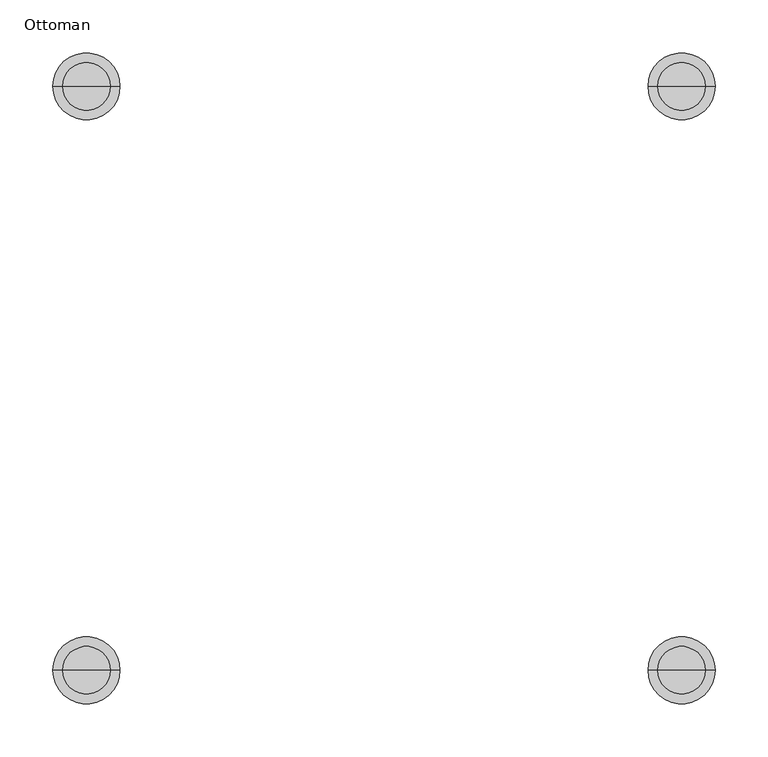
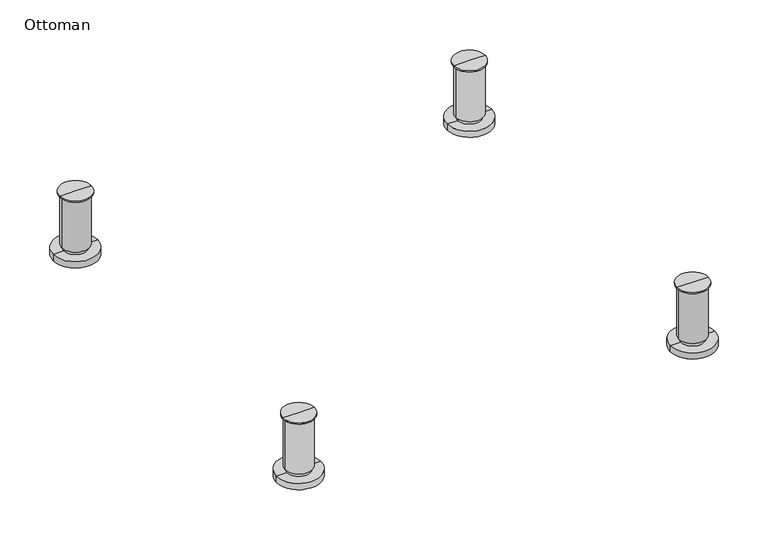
"""IFC4 building model written with IfcOpenShell, lengths in millimetres: furniture geometry, Steelcase Turnstone - Jenny - Seating - Ottoman : Ottoman."""

from ifc_helpers import new_model, si_unit, frame, origin, place, context, project, spatial, circle_curve, source, transform, mapped, element, save
from ifc_brep_helpers import plane_surface, cylinder_surface, advanced_brep


def ottoman_c342d5f9(model_context):
    return source(origin(), model_context, "Body", "AdvancedBrep", [
        advanced_brep(
        [(310.547008, -626.5173576, 0.0), (252.546866, -626.5173576, 0.0), (281.546937, -626.5173576, 0.0), (310.547008, -626.5173576, 1.6510045), (252.546866, -626.5173576, 1.6510045), (313.296937, -626.5173576, 1.6510045), (249.796937, -626.5173576, 1.6510045), (313.296937, -626.5173576, 10.9220047), (249.796937, -626.5173576, 10.9220047), (298.3746647, -626.5173576, 10.9220047), (264.7192093, -626.5173576, 10.9220047), (298.3746647, -626.5173576, 16.7448136), (264.7192093, -626.5173576, 16.7448136), (301.0363239, -626.5173576, 16.7448136), (262.0575501, -626.5173576, 16.7448136), (301.0363239, -626.5173576, 94.1126451), (262.0575501, -626.5173576, 94.1126451), (304.0513289, -626.5173576, 94.1126451), (259.0425451, -626.5173576, 94.1126451), (304.0513289, -626.5173576, 95.7636405), (259.0425451, -626.5173576, 95.7636405), (281.546937, -626.5173576, 95.7636405)],
        [
            (0, 1, circle_curve(frame((281.546937, -626.5173576, 0.0), z_axis=(0.0, 0.0, -1.0), x_axis=(-1.0, 0.0, 0.0)), 29.000071)),
            (1, 2),
            (2, 0),
            (1, 0, circle_curve(frame((281.546937, -626.5173576, 0.0), z_axis=(0.0, 0.0, -1.0), x_axis=(-1.0, 0.0, 0.0)), 29.000071)),
            (3, 4, circle_curve(frame((281.546937, -626.5173576, 1.6510045), z_axis=(0.0, 0.0, -1.0), x_axis=(-1.0, 0.0, 0.0)), 29.000071)),
            (4, 1),
            (0, 3),
            (4, 3, circle_curve(frame((281.546937, -626.5173576, 1.6510045), z_axis=(0.0, 0.0, -1.0), x_axis=(-1.0, 0.0, 0.0)), 29.000071)),
            (5, 6, circle_curve(frame((281.546937, -626.5173576, 1.6510045), z_axis=(0.0, 0.0, -1.0), x_axis=(-1.0, 0.0, 0.0)), 31.75)),
            (6, 4),
            (3, 5),
            (6, 5, circle_curve(frame((281.546937, -626.5173576, 1.6510045), z_axis=(0.0, 0.0, -1.0), x_axis=(-1.0, 0.0, 0.0)), 31.75)),
            (7, 8, circle_curve(frame((281.546937, -626.5173576, 10.9220047), z_axis=(0.0, 0.0, -1.0), x_axis=(-1.0, 0.0, 0.0)), 31.75)),
            (8, 6),
            (5, 7),
            (8, 7, circle_curve(frame((281.546937, -626.5173576, 10.9220047), z_axis=(0.0, 0.0, -1.0), x_axis=(-1.0, 0.0, 0.0)), 31.75)),
            (9, 10, circle_curve(frame((281.546937, -626.5173576, 10.9220047), z_axis=(0.0, 0.0, -1.0), x_axis=(-1.0, 0.0, 0.0)), 16.8277277)),
            (10, 8),
            (7, 9),
            (10, 9, circle_curve(frame((281.546937, -626.5173576, 10.9220047), z_axis=(0.0, 0.0, -1.0), x_axis=(-1.0, 0.0, 0.0)), 16.8277277)),
            (11, 12, circle_curve(frame((281.546937, -626.5173576, 16.7448136), z_axis=(0.0, 0.0, -1.0), x_axis=(-1.0, 0.0, 0.0)), 16.8277277)),
            (12, 10),
            (9, 11),
            (12, 11, circle_curve(frame((281.546937, -626.5173576, 16.7448136), z_axis=(0.0, 0.0, -1.0), x_axis=(-1.0, 0.0, 0.0)), 16.8277277)),
            (13, 14, circle_curve(frame((281.546937, -626.5173576, 16.7448136), z_axis=(0.0, 0.0, -1.0), x_axis=(-1.0, 0.0, 0.0)), 19.4893869)),
            (14, 12),
            (11, 13),
            (14, 13, circle_curve(frame((281.546937, -626.5173576, 16.7448136), z_axis=(0.0, 0.0, -1.0), x_axis=(-1.0, 0.0, 0.0)), 19.4893869)),
            (15, 16, circle_curve(frame((281.546937, -626.5173576, 94.1126451), z_axis=(0.0, 0.0, -1.0), x_axis=(-1.0, 0.0, 0.0)), 19.4893869)),
            (16, 14),
            (13, 15),
            (16, 15, circle_curve(frame((281.546937, -626.5173576, 94.1126451), z_axis=(0.0, 0.0, -1.0), x_axis=(-1.0, 0.0, 0.0)), 19.4893869)),
            (17, 18, circle_curve(frame((281.546937, -626.5173576, 94.1126451), z_axis=(0.0, 0.0, -1.0), x_axis=(-1.0, 0.0, 0.0)), 22.5043919)),
            (18, 16),
            (15, 17),
            (18, 17, circle_curve(frame((281.546937, -626.5173576, 94.1126451), z_axis=(0.0, 0.0, -1.0), x_axis=(-1.0, 0.0, 0.0)), 22.5043919)),
            (19, 20, circle_curve(frame((281.546937, -626.5173576, 95.7636405), z_axis=(0.0, 0.0, -1.0), x_axis=(-1.0, 0.0, 0.0)), 22.5043919)),
            (20, 18),
            (17, 19),
            (20, 19, circle_curve(frame((281.546937, -626.5173576, 95.7636405), z_axis=(0.0, 0.0, -1.0), x_axis=(-1.0, 0.0, 0.0)), 22.5043919)),
            (21, 20),
            (19, 21),
        ],
        [
            plane_surface(frame((281.546937, -626.5173576, 0.0), z_axis=(0.0, 0.0, -1.0), x_axis=(-1.0, 0.0, 0.0))),
            cylinder_surface(frame((281.546937, -626.5173576, 89.4136405), z_axis=(0.0, 0.0, 1.0), x_axis=(-1.0, 0.0, 0.0)), 29.000071),
            plane_surface(frame((281.546937, -626.5173576, 1.6510045), z_axis=(0.0, 0.0, -1.0), x_axis=(-1.0, 0.0, 0.0))),
            cylinder_surface(frame((281.546937, -626.5173576, 89.4136405), z_axis=(0.0, 0.0, 1.0), x_axis=(-1.0, 0.0, 0.0)), 31.75),
            plane_surface(frame((281.546937, -626.5173576, 10.9220047), z_axis=(0.0, 0.0, 1.0), x_axis=(-1.0, 0.0, 0.0))),
            cylinder_surface(frame((281.546937, -626.5173576, 89.4136405), z_axis=(0.0, 0.0, 1.0), x_axis=(-1.0, 0.0, 0.0)), 16.8277277),
            plane_surface(frame((281.546937, -626.5173576, 16.7448136), z_axis=(0.0, 0.0, -1.0), x_axis=(-1.0, 0.0, 0.0))),
            cylinder_surface(frame((281.546937, -626.5173576, 89.4136405), z_axis=(0.0, 0.0, 1.0), x_axis=(-1.0, 0.0, 0.0)), 19.4893869),
            plane_surface(frame((281.546937, -626.5173576, 94.1126451), z_axis=(0.0, 0.0, -1.0), x_axis=(-1.0, 0.0, 0.0))),
            cylinder_surface(frame((281.546937, -626.5173576, 89.4136405), z_axis=(0.0, 0.0, 1.0), x_axis=(-1.0, 0.0, 0.0)), 22.5043919),
            plane_surface(frame((281.546937, -626.5173576, 95.7636405), z_axis=(0.0, 0.0, 1.0), x_axis=(-1.0, 0.0, 0.0))),
        ],
        [
            (0, [[1, 2, 3]]),
            (0, [[4, -3, -2]]),
            (1, [[5, 6, -1, 7]]),
            (1, [[8, -7, -4, -6]]),
            (2, [[9, 10, -5, 11]]),
            (2, [[12, -11, -8, -10]]),
            (3, [[13, 14, -9, 15]]),
            (3, [[16, -15, -12, -14]]),
            (4, [[17, 18, -13, 19]]),
            (4, [[20, -19, -16, -18]]),
            (5, [[21, 22, -17, 23]]),
            (5, [[24, -23, -20, -22]]),
            (6, [[25, 26, -21, 27]]),
            (6, [[28, -27, -24, -26]]),
            (7, [[29, 30, -25, 31]]),
            (7, [[32, -31, -28, -30]]),
            (8, [[33, 34, -29, 35]]),
            (8, [[36, -35, -32, -34]]),
            (9, [[37, 38, -33, 39]]),
            (9, [[40, -39, -36, -38]]),
            (10, [[41, -37, 42]]),
            (10, [[-42, -40, -41]]),
        ],
    ),
        advanced_brep(
        [(-281.546937, -626.5173576, 0.0), (-252.546866, -626.5173576, 0.0), (-310.547008, -626.5173576, 0.0), (-252.546866, -626.5173576, 1.6510045), (-310.547008, -626.5173576, 1.6510045), (-249.796937, -626.5173576, 1.6510045), (-313.296937, -626.5173576, 1.6510045), (-249.796937, -626.5173576, 10.9220047), (-313.296937, -626.5173576, 10.9220047), (-264.7192093, -626.5173576, 10.9220047), (-298.3746647, -626.5173576, 10.9220047), (-264.7192093, -626.5173576, 16.7448136), (-298.3746647, -626.5173576, 16.7448136), (-262.0575501, -626.5173576, 16.7448136), (-301.0363239, -626.5173576, 16.7448136), (-262.0575501, -626.5173576, 94.1126451), (-301.0363239, -626.5173576, 94.1126451), (-259.0425451, -626.5173576, 94.1126451), (-304.0513289, -626.5173576, 94.1126451), (-259.0425451, -626.5173576, 95.7636405), (-304.0513289, -626.5173576, 95.7636405), (-281.546937, -626.5173576, 95.7636405)],
        [
            (0, 1),
            (1, 2, circle_curve(frame((-281.546937, -626.5173576, 0.0), z_axis=(0.0, 0.0, -1.0), x_axis=(1.0, 0.0, 0.0)), 29.000071)),
            (2, 0),
            (2, 1, circle_curve(frame((-281.546937, -626.5173576, 0.0), z_axis=(0.0, 0.0, -1.0), x_axis=(1.0, 0.0, 0.0)), 29.000071)),
            (1, 3),
            (3, 4, circle_curve(frame((-281.546937, -626.5173576, 1.6510045), z_axis=(0.0, 0.0, -1.0), x_axis=(1.0, 0.0, 0.0)), 29.000071)),
            (4, 2),
            (4, 3, circle_curve(frame((-281.546937, -626.5173576, 1.6510045), z_axis=(0.0, 0.0, -1.0), x_axis=(1.0, 0.0, 0.0)), 29.000071)),
            (3, 5),
            (5, 6, circle_curve(frame((-281.546937, -626.5173576, 1.6510045), z_axis=(0.0, 0.0, -1.0), x_axis=(1.0, 0.0, 0.0)), 31.75)),
            (6, 4),
            (6, 5, circle_curve(frame((-281.546937, -626.5173576, 1.6510045), z_axis=(0.0, 0.0, -1.0), x_axis=(1.0, 0.0, 0.0)), 31.75)),
            (5, 7),
            (7, 8, circle_curve(frame((-281.546937, -626.5173576, 10.9220047), z_axis=(0.0, 0.0, -1.0), x_axis=(1.0, 0.0, 0.0)), 31.75)),
            (8, 6),
            (8, 7, circle_curve(frame((-281.546937, -626.5173576, 10.9220047), z_axis=(0.0, 0.0, -1.0), x_axis=(1.0, 0.0, 0.0)), 31.75)),
            (7, 9),
            (9, 10, circle_curve(frame((-281.546937, -626.5173576, 10.9220047), z_axis=(0.0, 0.0, -1.0), x_axis=(1.0, 0.0, 0.0)), 16.8277277)),
            (10, 8),
            (10, 9, circle_curve(frame((-281.546937, -626.5173576, 10.9220047), z_axis=(0.0, 0.0, -1.0), x_axis=(1.0, 0.0, 0.0)), 16.8277277)),
            (9, 11),
            (11, 12, circle_curve(frame((-281.546937, -626.5173576, 16.7448136), z_axis=(0.0, 0.0, -1.0), x_axis=(1.0, 0.0, 0.0)), 16.8277277)),
            (12, 10),
            (12, 11, circle_curve(frame((-281.546937, -626.5173576, 16.7448136), z_axis=(0.0, 0.0, -1.0), x_axis=(1.0, 0.0, 0.0)), 16.8277277)),
            (11, 13),
            (13, 14, circle_curve(frame((-281.546937, -626.5173576, 16.7448136), z_axis=(0.0, 0.0, -1.0), x_axis=(1.0, 0.0, 0.0)), 19.4893869)),
            (14, 12),
            (14, 13, circle_curve(frame((-281.546937, -626.5173576, 16.7448136), z_axis=(0.0, 0.0, -1.0), x_axis=(1.0, 0.0, 0.0)), 19.4893869)),
            (13, 15),
            (15, 16, circle_curve(frame((-281.546937, -626.5173576, 94.1126451), z_axis=(0.0, 0.0, -1.0), x_axis=(1.0, 0.0, 0.0)), 19.4893869)),
            (16, 14),
            (16, 15, circle_curve(frame((-281.546937, -626.5173576, 94.1126451), z_axis=(0.0, 0.0, -1.0), x_axis=(1.0, 0.0, 0.0)), 19.4893869)),
            (15, 17),
            (17, 18, circle_curve(frame((-281.546937, -626.5173576, 94.1126451), z_axis=(0.0, 0.0, -1.0), x_axis=(1.0, 0.0, 0.0)), 22.5043919)),
            (18, 16),
            (18, 17, circle_curve(frame((-281.546937, -626.5173576, 94.1126451), z_axis=(0.0, 0.0, -1.0), x_axis=(1.0, 0.0, 0.0)), 22.5043919)),
            (17, 19),
            (19, 20, circle_curve(frame((-281.546937, -626.5173576, 95.7636405), z_axis=(0.0, 0.0, -1.0), x_axis=(1.0, 0.0, 0.0)), 22.5043919)),
            (20, 18),
            (20, 19, circle_curve(frame((-281.546937, -626.5173576, 95.7636405), z_axis=(0.0, 0.0, -1.0), x_axis=(1.0, 0.0, 0.0)), 22.5043919)),
            (19, 21),
            (21, 20),
        ],
        [
            plane_surface(frame((-281.546937, -626.5173576, 0.0), z_axis=(0.0, 0.0, -1.0), x_axis=(1.0, 0.0, 0.0))),
            cylinder_surface(frame((-281.546937, -626.5173576, 89.4136405), z_axis=(0.0, 0.0, -1.0), x_axis=(1.0, 0.0, 0.0)), 29.000071),
            plane_surface(frame((-281.546937, -626.5173576, 1.6510045), z_axis=(0.0, 0.0, -1.0), x_axis=(1.0, 0.0, 0.0))),
            cylinder_surface(frame((-281.546937, -626.5173576, 89.4136405), z_axis=(0.0, 0.0, -1.0), x_axis=(1.0, 0.0, 0.0)), 31.75),
            plane_surface(frame((-281.546937, -626.5173576, 10.9220047), z_axis=(0.0, 0.0, 1.0), x_axis=(1.0, 0.0, 0.0))),
            cylinder_surface(frame((-281.546937, -626.5173576, 89.4136405), z_axis=(0.0, 0.0, -1.0), x_axis=(1.0, 0.0, 0.0)), 16.8277277),
            plane_surface(frame((-281.546937, -626.5173576, 16.7448136), z_axis=(0.0, 0.0, -1.0), x_axis=(1.0, 0.0, 0.0))),
            cylinder_surface(frame((-281.546937, -626.5173576, 89.4136405), z_axis=(0.0, 0.0, -1.0), x_axis=(1.0, 0.0, 0.0)), 19.4893869),
            plane_surface(frame((-281.546937, -626.5173576, 94.1126451), z_axis=(0.0, 0.0, -1.0), x_axis=(1.0, 0.0, 0.0))),
            cylinder_surface(frame((-281.546937, -626.5173576, 89.4136405), z_axis=(0.0, 0.0, -1.0), x_axis=(1.0, 0.0, 0.0)), 22.5043919),
            plane_surface(frame((-281.546937, -626.5173576, 95.7636405), z_axis=(0.0, 0.0, 1.0), x_axis=(1.0, 0.0, 0.0))),
        ],
        [
            (0, [[1, 2, 3]]),
            (0, [[-3, 4, -1]]),
            (1, [[-2, 5, 6, 7]]),
            (1, [[-4, -7, 8, -5]]),
            (2, [[-6, 9, 10, 11]]),
            (2, [[-8, -11, 12, -9]]),
            (3, [[-10, 13, 14, 15]]),
            (3, [[-12, -15, 16, -13]]),
            (4, [[-14, 17, 18, 19]]),
            (4, [[-16, -19, 20, -17]]),
            (5, [[-18, 21, 22, 23]]),
            (5, [[-20, -23, 24, -21]]),
            (6, [[-22, 25, 26, 27]]),
            (6, [[-24, -27, 28, -25]]),
            (7, [[-26, 29, 30, 31]]),
            (7, [[-28, -31, 32, -29]]),
            (8, [[-30, 33, 34, 35]]),
            (8, [[-32, -35, 36, -33]]),
            (9, [[-34, 37, 38, 39]]),
            (9, [[-36, -39, 40, -37]]),
            (10, [[-38, 41, 42]]),
            (10, [[-40, -42, -41]]),
        ],
    ),
        advanced_brep(
        [(281.546937, -73.7767424, 0.0), (252.546866, -73.7767424, 0.0), (310.547008, -73.7767424, 0.0), (252.546866, -73.7767424, 1.6510045), (310.547008, -73.7767424, 1.6510045), (249.796937, -73.7767424, 1.6510045), (313.296937, -73.7767424, 1.6510045), (249.796937, -73.7767424, 10.9220047), (313.296937, -73.7767424, 10.9220047), (264.7192093, -73.7767424, 10.9220047), (298.3746647, -73.7767424, 10.9220047), (264.7192093, -73.7767424, 16.7448136), (298.3746647, -73.7767424, 16.7448136), (262.0575501, -73.7767424, 16.7448136), (301.0363239, -73.7767424, 16.7448136), (262.0575501, -73.7767424, 94.1126451), (301.0363239, -73.7767424, 94.1126451), (259.0425451, -73.7767424, 94.1126451), (304.0513289, -73.7767424, 94.1126451), (259.0425451, -73.7767424, 95.7636405), (304.0513289, -73.7767424, 95.7636405), (281.546937, -73.7767424, 95.7636405)],
        [
            (0, 1),
            (1, 2, circle_curve(frame((281.546937, -73.7767424, 0.0), z_axis=(0.0, 0.0, -1.0), x_axis=(-1.0, 0.0, 0.0)), 29.000071)),
            (2, 0),
            (2, 1, circle_curve(frame((281.546937, -73.7767424, 0.0), z_axis=(0.0, 0.0, -1.0), x_axis=(-1.0, 0.0, 0.0)), 29.000071)),
            (1, 3),
            (3, 4, circle_curve(frame((281.546937, -73.7767424, 1.6510045), z_axis=(0.0, 0.0, -1.0), x_axis=(-1.0, 0.0, 0.0)), 29.000071)),
            (4, 2),
            (4, 3, circle_curve(frame((281.546937, -73.7767424, 1.6510045), z_axis=(0.0, 0.0, -1.0), x_axis=(-1.0, 0.0, 0.0)), 29.000071)),
            (3, 5),
            (5, 6, circle_curve(frame((281.546937, -73.7767424, 1.6510045), z_axis=(0.0, 0.0, -1.0), x_axis=(-1.0, 0.0, 0.0)), 31.75)),
            (6, 4),
            (6, 5, circle_curve(frame((281.546937, -73.7767424, 1.6510045), z_axis=(0.0, 0.0, -1.0), x_axis=(-1.0, 0.0, 0.0)), 31.75)),
            (5, 7),
            (7, 8, circle_curve(frame((281.546937, -73.7767424, 10.9220047), z_axis=(0.0, 0.0, -1.0), x_axis=(-1.0, 0.0, 0.0)), 31.75)),
            (8, 6),
            (8, 7, circle_curve(frame((281.546937, -73.7767424, 10.9220047), z_axis=(0.0, 0.0, -1.0), x_axis=(-1.0, 0.0, 0.0)), 31.75)),
            (7, 9),
            (9, 10, circle_curve(frame((281.546937, -73.7767424, 10.9220047), z_axis=(0.0, 0.0, -1.0), x_axis=(-1.0, 0.0, 0.0)), 16.8277277)),
            (10, 8),
            (10, 9, circle_curve(frame((281.546937, -73.7767424, 10.9220047), z_axis=(0.0, 0.0, -1.0), x_axis=(-1.0, 0.0, 0.0)), 16.8277277)),
            (9, 11),
            (11, 12, circle_curve(frame((281.546937, -73.7767424, 16.7448136), z_axis=(0.0, 0.0, -1.0), x_axis=(-1.0, 0.0, 0.0)), 16.8277277)),
            (12, 10),
            (12, 11, circle_curve(frame((281.546937, -73.7767424, 16.7448136), z_axis=(0.0, 0.0, -1.0), x_axis=(-1.0, 0.0, 0.0)), 16.8277277)),
            (11, 13),
            (13, 14, circle_curve(frame((281.546937, -73.7767424, 16.7448136), z_axis=(0.0, 0.0, -1.0), x_axis=(-1.0, 0.0, 0.0)), 19.4893869)),
            (14, 12),
            (14, 13, circle_curve(frame((281.546937, -73.7767424, 16.7448136), z_axis=(0.0, 0.0, -1.0), x_axis=(-1.0, 0.0, 0.0)), 19.4893869)),
            (13, 15),
            (15, 16, circle_curve(frame((281.546937, -73.7767424, 94.1126451), z_axis=(0.0, 0.0, -1.0), x_axis=(-1.0, 0.0, 0.0)), 19.4893869)),
            (16, 14),
            (16, 15, circle_curve(frame((281.546937, -73.7767424, 94.1126451), z_axis=(0.0, 0.0, -1.0), x_axis=(-1.0, 0.0, 0.0)), 19.4893869)),
            (15, 17),
            (17, 18, circle_curve(frame((281.546937, -73.7767424, 94.1126451), z_axis=(0.0, 0.0, -1.0), x_axis=(-1.0, 0.0, 0.0)), 22.5043919)),
            (18, 16),
            (18, 17, circle_curve(frame((281.546937, -73.7767424, 94.1126451), z_axis=(0.0, 0.0, -1.0), x_axis=(-1.0, 0.0, 0.0)), 22.5043919)),
            (17, 19),
            (19, 20, circle_curve(frame((281.546937, -73.7767424, 95.7636405), z_axis=(0.0, 0.0, -1.0), x_axis=(-1.0, 0.0, 0.0)), 22.5043919)),
            (20, 18),
            (20, 19, circle_curve(frame((281.546937, -73.7767424, 95.7636405), z_axis=(0.0, 0.0, -1.0), x_axis=(-1.0, 0.0, 0.0)), 22.5043919)),
            (19, 21),
            (21, 20),
        ],
        [
            plane_surface(frame((281.546937, -73.7767424, 0.0), z_axis=(0.0, 0.0, -1.0), x_axis=(-1.0, 0.0, 0.0))),
            cylinder_surface(frame((281.546937, -73.7767424, 89.4136405), z_axis=(0.0, 0.0, -1.0), x_axis=(-1.0, 0.0, 0.0)), 29.000071),
            plane_surface(frame((281.546937, -73.7767424, 1.6510045), z_axis=(0.0, 0.0, -1.0), x_axis=(-1.0, 0.0, 0.0))),
            cylinder_surface(frame((281.546937, -73.7767424, 89.4136405), z_axis=(0.0, 0.0, -1.0), x_axis=(-1.0, 0.0, 0.0)), 31.75),
            plane_surface(frame((281.546937, -73.7767424, 10.9220047), z_axis=(0.0, 0.0, 1.0), x_axis=(-1.0, 0.0, 0.0))),
            cylinder_surface(frame((281.546937, -73.7767424, 89.4136405), z_axis=(0.0, 0.0, -1.0), x_axis=(-1.0, 0.0, 0.0)), 16.8277277),
            plane_surface(frame((281.546937, -73.7767424, 16.7448136), z_axis=(0.0, 0.0, -1.0), x_axis=(-1.0, 0.0, 0.0))),
            cylinder_surface(frame((281.546937, -73.7767424, 89.4136405), z_axis=(0.0, 0.0, -1.0), x_axis=(-1.0, 0.0, 0.0)), 19.4893869),
            plane_surface(frame((281.546937, -73.7767424, 94.1126451), z_axis=(0.0, 0.0, -1.0), x_axis=(-1.0, 0.0, 0.0))),
            cylinder_surface(frame((281.546937, -73.7767424, 89.4136405), z_axis=(0.0, 0.0, -1.0), x_axis=(-1.0, 0.0, 0.0)), 22.5043919),
            plane_surface(frame((281.546937, -73.7767424, 95.7636405), z_axis=(0.0, 0.0, 1.0), x_axis=(-1.0, 0.0, 0.0))),
        ],
        [
            (0, [[1, 2, 3]]),
            (0, [[-3, 4, -1]]),
            (1, [[-2, 5, 6, 7]]),
            (1, [[-4, -7, 8, -5]]),
            (2, [[-6, 9, 10, 11]]),
            (2, [[-8, -11, 12, -9]]),
            (3, [[-10, 13, 14, 15]]),
            (3, [[-12, -15, 16, -13]]),
            (4, [[-14, 17, 18, 19]]),
            (4, [[-16, -19, 20, -17]]),
            (5, [[-18, 21, 22, 23]]),
            (5, [[-20, -23, 24, -21]]),
            (6, [[-22, 25, 26, 27]]),
            (6, [[-24, -27, 28, -25]]),
            (7, [[-26, 29, 30, 31]]),
            (7, [[-28, -31, 32, -29]]),
            (8, [[-30, 33, 34, 35]]),
            (8, [[-32, -35, 36, -33]]),
            (9, [[-34, 37, 38, 39]]),
            (9, [[-36, -39, 40, -37]]),
            (10, [[-38, 41, 42]]),
            (10, [[-40, -42, -41]]),
        ],
    ),
        advanced_brep(
        [(-310.547008, -73.7767424, 0.0), (-252.546866, -73.7767424, 0.0), (-281.546937, -73.7767424, 0.0), (-310.547008, -73.7767424, 1.6510045), (-252.546866, -73.7767424, 1.6510045), (-313.296937, -73.7767424, 1.6510045), (-249.796937, -73.7767424, 1.6510045), (-313.296937, -73.7767424, 10.9220047), (-249.796937, -73.7767424, 10.9220047), (-298.3746647, -73.7767424, 10.9220047), (-264.7192093, -73.7767424, 10.9220047), (-298.3746647, -73.7767424, 16.7448136), (-264.7192093, -73.7767424, 16.7448136), (-301.0363239, -73.7767424, 16.7448136), (-262.0575501, -73.7767424, 16.7448136), (-301.0363239, -73.7767424, 94.1126451), (-262.0575501, -73.7767424, 94.1126451), (-304.0513289, -73.7767424, 94.1126451), (-259.0425451, -73.7767424, 94.1126451), (-304.0513289, -73.7767424, 95.7636405), (-259.0425451, -73.7767424, 95.7636405), (-281.546937, -73.7767424, 95.7636405)],
        [
            (0, 1, circle_curve(frame((-281.546937, -73.7767424, 0.0), z_axis=(0.0, 0.0, -1.0), x_axis=(1.0, 0.0, 0.0)), 29.000071)),
            (1, 2),
            (2, 0),
            (1, 0, circle_curve(frame((-281.546937, -73.7767424, 0.0), z_axis=(0.0, 0.0, -1.0), x_axis=(1.0, 0.0, 0.0)), 29.000071)),
            (3, 4, circle_curve(frame((-281.546937, -73.7767424, 1.6510045), z_axis=(0.0, 0.0, -1.0), x_axis=(1.0, 0.0, 0.0)), 29.000071)),
            (4, 1),
            (0, 3),
            (4, 3, circle_curve(frame((-281.546937, -73.7767424, 1.6510045), z_axis=(0.0, 0.0, -1.0), x_axis=(1.0, 0.0, 0.0)), 29.000071)),
            (5, 6, circle_curve(frame((-281.546937, -73.7767424, 1.6510045), z_axis=(0.0, 0.0, -1.0), x_axis=(1.0, 0.0, 0.0)), 31.75)),
            (6, 4),
            (3, 5),
            (6, 5, circle_curve(frame((-281.546937, -73.7767424, 1.6510045), z_axis=(0.0, 0.0, -1.0), x_axis=(1.0, 0.0, 0.0)), 31.75)),
            (7, 8, circle_curve(frame((-281.546937, -73.7767424, 10.9220047), z_axis=(0.0, 0.0, -1.0), x_axis=(1.0, 0.0, 0.0)), 31.75)),
            (8, 6),
            (5, 7),
            (8, 7, circle_curve(frame((-281.546937, -73.7767424, 10.9220047), z_axis=(0.0, 0.0, -1.0), x_axis=(1.0, 0.0, 0.0)), 31.75)),
            (9, 10, circle_curve(frame((-281.546937, -73.7767424, 10.9220047), z_axis=(0.0, 0.0, -1.0), x_axis=(1.0, 0.0, 0.0)), 16.8277277)),
            (10, 8),
            (7, 9),
            (10, 9, circle_curve(frame((-281.546937, -73.7767424, 10.9220047), z_axis=(0.0, 0.0, -1.0), x_axis=(1.0, 0.0, 0.0)), 16.8277277)),
            (11, 12, circle_curve(frame((-281.546937, -73.7767424, 16.7448136), z_axis=(0.0, 0.0, -1.0), x_axis=(1.0, 0.0, 0.0)), 16.8277277)),
            (12, 10),
            (9, 11),
            (12, 11, circle_curve(frame((-281.546937, -73.7767424, 16.7448136), z_axis=(0.0, 0.0, -1.0), x_axis=(1.0, 0.0, 0.0)), 16.8277277)),
            (13, 14, circle_curve(frame((-281.546937, -73.7767424, 16.7448136), z_axis=(0.0, 0.0, -1.0), x_axis=(1.0, 0.0, 0.0)), 19.4893869)),
            (14, 12),
            (11, 13),
            (14, 13, circle_curve(frame((-281.546937, -73.7767424, 16.7448136), z_axis=(0.0, 0.0, -1.0), x_axis=(1.0, 0.0, 0.0)), 19.4893869)),
            (15, 16, circle_curve(frame((-281.546937, -73.7767424, 94.1126451), z_axis=(0.0, 0.0, -1.0), x_axis=(1.0, 0.0, 0.0)), 19.4893869)),
            (16, 14),
            (13, 15),
            (16, 15, circle_curve(frame((-281.546937, -73.7767424, 94.1126451), z_axis=(0.0, 0.0, -1.0), x_axis=(1.0, 0.0, 0.0)), 19.4893869)),
            (17, 18, circle_curve(frame((-281.546937, -73.7767424, 94.1126451), z_axis=(0.0, 0.0, -1.0), x_axis=(1.0, 0.0, 0.0)), 22.5043919)),
            (18, 16),
            (15, 17),
            (18, 17, circle_curve(frame((-281.546937, -73.7767424, 94.1126451), z_axis=(0.0, 0.0, -1.0), x_axis=(1.0, 0.0, 0.0)), 22.5043919)),
            (19, 20, circle_curve(frame((-281.546937, -73.7767424, 95.7636405), z_axis=(0.0, 0.0, -1.0), x_axis=(1.0, 0.0, 0.0)), 22.5043919)),
            (20, 18),
            (17, 19),
            (20, 19, circle_curve(frame((-281.546937, -73.7767424, 95.7636405), z_axis=(0.0, 0.0, -1.0), x_axis=(1.0, 0.0, 0.0)), 22.5043919)),
            (21, 20),
            (19, 21),
        ],
        [
            plane_surface(frame((-281.546937, -73.7767424, 0.0), z_axis=(0.0, 0.0, -1.0), x_axis=(1.0, 0.0, 0.0))),
            cylinder_surface(frame((-281.546937, -73.7767424, 89.4136405), z_axis=(0.0, 0.0, 1.0), x_axis=(1.0, 0.0, 0.0)), 29.000071),
            plane_surface(frame((-281.546937, -73.7767424, 1.6510045), z_axis=(0.0, 0.0, -1.0), x_axis=(1.0, 0.0, 0.0))),
            cylinder_surface(frame((-281.546937, -73.7767424, 89.4136405), z_axis=(0.0, 0.0, 1.0), x_axis=(1.0, 0.0, 0.0)), 31.75),
            plane_surface(frame((-281.546937, -73.7767424, 10.9220047), z_axis=(0.0, 0.0, 1.0), x_axis=(1.0, 0.0, 0.0))),
            cylinder_surface(frame((-281.546937, -73.7767424, 89.4136405), z_axis=(0.0, 0.0, 1.0), x_axis=(1.0, 0.0, 0.0)), 16.8277277),
            plane_surface(frame((-281.546937, -73.7767424, 16.7448136), z_axis=(0.0, 0.0, -1.0), x_axis=(1.0, 0.0, 0.0))),
            cylinder_surface(frame((-281.546937, -73.7767424, 89.4136405), z_axis=(0.0, 0.0, 1.0), x_axis=(1.0, 0.0, 0.0)), 19.4893869),
            plane_surface(frame((-281.546937, -73.7767424, 94.1126451), z_axis=(0.0, 0.0, -1.0), x_axis=(1.0, 0.0, 0.0))),
            cylinder_surface(frame((-281.546937, -73.7767424, 89.4136405), z_axis=(0.0, 0.0, 1.0), x_axis=(1.0, 0.0, 0.0)), 22.5043919),
            plane_surface(frame((-281.546937, -73.7767424, 95.7636405), z_axis=(0.0, 0.0, 1.0), x_axis=(1.0, 0.0, 0.0))),
        ],
        [
            (0, [[1, 2, 3]]),
            (0, [[4, -3, -2]]),
            (1, [[5, 6, -1, 7]]),
            (1, [[8, -7, -4, -6]]),
            (2, [[9, 10, -5, 11]]),
            (2, [[12, -11, -8, -10]]),
            (3, [[13, 14, -9, 15]]),
            (3, [[16, -15, -12, -14]]),
            (4, [[17, 18, -13, 19]]),
            (4, [[20, -19, -16, -18]]),
            (5, [[21, 22, -17, 23]]),
            (5, [[24, -23, -20, -22]]),
            (6, [[25, 26, -21, 27]]),
            (6, [[28, -27, -24, -26]]),
            (7, [[29, 30, -25, 31]]),
            (7, [[32, -31, -28, -30]]),
            (8, [[33, 34, -29, 35]]),
            (8, [[36, -35, -32, -34]]),
            (9, [[37, 38, -33, 39]]),
            (9, [[40, -39, -36, -38]]),
            (10, [[41, -37, 42]]),
            (10, [[-42, -40, -41]]),
        ],
    ),
    ])


if __name__ == "__main__":
    model = new_model("IFC4")
    model_context = context("Model", 3, world=origin())
    ifc_project = project(units=[si_unit("LENGTHUNIT", "METRE", prefix="MILLI")], contexts=[model_context])
    site = spatial("IfcSite", under=ifc_project)
    building = spatial("IfcBuilding", under=site)
    placement = place(None, origin())
    ottoman_shape = ottoman_c342d5f9(model_context)
    element("IfcFurniture", 1, ObjectType="Steelcase Turnstone - Jenny - Seating - Ottoman : Ottoman", at=placement, inside=building, context=model_context, shape_type="MappedRepresentation", body=[
        mapped(ottoman_shape, transform((0.0, 0.0, 0.0), x_axis=(1.0, 0.0, 0.0), y_axis=(0.0, 1.0, 0.0), z_axis=(0.0, 0.0, 1.0))),
    ])
    save(model, "model.ifc")
